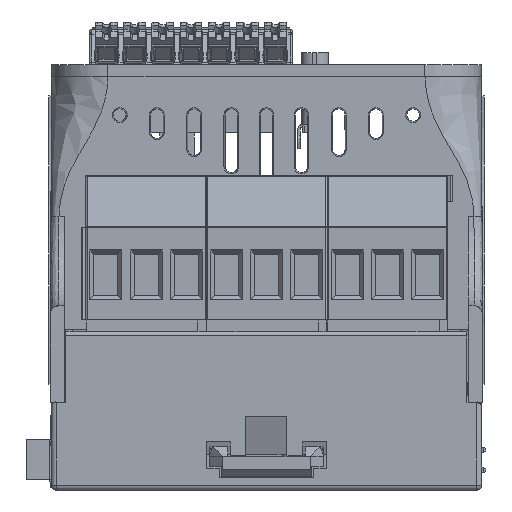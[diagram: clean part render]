
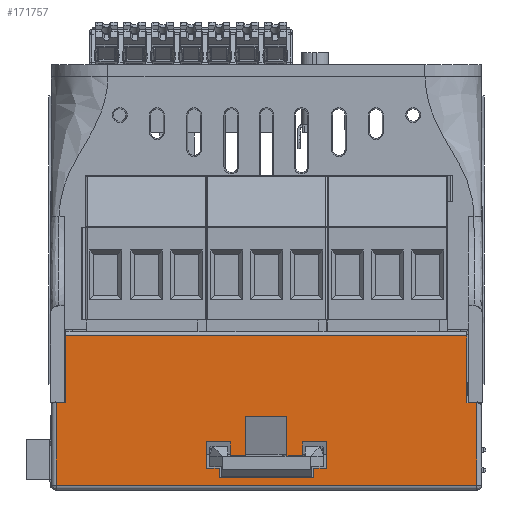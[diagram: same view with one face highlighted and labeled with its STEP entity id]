
A CAD part, front view. The second image highlights one B-rep face of the part: STEP entity #171757.
In plain terms, the highlighted planar face has unit normal (0, -1, 0).
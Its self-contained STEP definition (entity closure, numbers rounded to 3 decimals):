
#6497=FACE_BOUND('',#19394,.T.);
#10285=FACE_OUTER_BOUND('',#19393,.T.);
#19393=EDGE_LOOP('',(#122571,#122572,#122573,#122574,#122575,#122576,#122577,
#122578,#122579,#122580));
#19394=EDGE_LOOP('',(#122581,#122582,#122583,#122584,#122585,#122586,#122587,
#122588,#122589,#122590,#122591,#122592,#122593,#122594,#122595,#122596));
#32090=LINE('',#256735,#51906);
#32251=LINE('',#258641,#52067);
#32337=LINE('',#259211,#52153);
#32340=LINE('',#259222,#52156);
#32361=LINE('',#259274,#52177);
#32962=LINE('',#260685,#52778);
#32965=LINE('',#260690,#52781);
#32967=LINE('',#260694,#52783);
#32969=LINE('',#260698,#52785);
#32973=LINE('',#260704,#52789);
#32975=LINE('',#260708,#52791);
#32976=LINE('',#260711,#52792);
#32979=LINE('',#260716,#52795);
#32981=LINE('',#260720,#52797);
#32983=LINE('',#260724,#52799);
#32986=LINE('',#260729,#52802);
#32988=LINE('',#260733,#52804);
#32991=LINE('',#260738,#52807);
#32992=LINE('',#260741,#52808);
#32994=LINE('',#260745,#52810);
#32996=LINE('',#260748,#52812);
#32997=LINE('',#260751,#52813);
#33191=LINE('',#261257,#53007);
#33193=LINE('',#261260,#53009);
#33212=LINE('',#261304,#53028);
#33213=LINE('',#261306,#53029);
#51906=VECTOR('',#201868,1.);
#52067=VECTOR('',#202317,1.);
#52153=VECTOR('',#202749,1.);
#52156=VECTOR('',#202762,1.);
#52177=VECTOR('',#202799,1.);
#52778=VECTOR('',#204050,1.);
#52781=VECTOR('',#204055,1.);
#52783=VECTOR('',#204059,1.);
#52785=VECTOR('',#204063,1.);
#52789=VECTOR('',#204069,1.);
#52791=VECTOR('',#204073,1.);
#52792=VECTOR('',#204076,1.);
#52795=VECTOR('',#204081,1.);
#52797=VECTOR('',#204085,1.);
#52799=VECTOR('',#204089,1.);
#52802=VECTOR('',#204094,1.);
#52804=VECTOR('',#204098,1.);
#52807=VECTOR('',#204103,1.);
#52808=VECTOR('',#204106,1.);
#52810=VECTOR('',#204110,1.);
#52812=VECTOR('',#204114,1.);
#52813=VECTOR('',#204117,1.);
#53007=VECTOR('',#204599,1.);
#53009=VECTOR('',#204603,1.);
#53028=VECTOR('',#204650,1.);
#53029=VECTOR('',#204653,1.);
#70187=VERTEX_POINT('',#255951);
#70274=VERTEX_POINT('',#256733);
#70414=VERTEX_POINT('',#258638);
#70415=VERTEX_POINT('',#258640);
#70546=VERTEX_POINT('',#259209);
#70549=VERTEX_POINT('',#259221);
#70571=VERTEX_POINT('',#259271);
#70572=VERTEX_POINT('',#259273);
#71029=VERTEX_POINT('',#260592);
#71047=VERTEX_POINT('',#260682);
#71048=VERTEX_POINT('',#260684);
#71049=VERTEX_POINT('',#260688);
#71050=VERTEX_POINT('',#260692);
#71051=VERTEX_POINT('',#260697);
#71052=VERTEX_POINT('',#260702);
#71053=VERTEX_POINT('',#260706);
#71054=VERTEX_POINT('',#260710);
#71055=VERTEX_POINT('',#260715);
#71056=VERTEX_POINT('',#260719);
#71057=VERTEX_POINT('',#260723);
#71058=VERTEX_POINT('',#260728);
#71059=VERTEX_POINT('',#260732);
#71060=VERTEX_POINT('',#260736);
#71061=VERTEX_POINT('',#260740);
#71062=VERTEX_POINT('',#260744);
#71063=VERTEX_POINT('',#260750);
#88529=EDGE_CURVE('',#70187,#70274,#32090,.T.);
#88779=EDGE_CURVE('',#70415,#70414,#32251,.T.);
#88962=EDGE_CURVE('',#70274,#70546,#32337,.T.);
#88967=EDGE_CURVE('',#70549,#70415,#32340,.T.);
#88992=EDGE_CURVE('',#70572,#70571,#32361,.T.);
#89703=EDGE_CURVE('',#71048,#71047,#32962,.T.);
#89706=EDGE_CURVE('',#71049,#71048,#32965,.T.);
#89708=EDGE_CURVE('',#71049,#71050,#32967,.T.);
#89710=EDGE_CURVE('',#71050,#71051,#32969,.T.);
#89714=EDGE_CURVE('',#71052,#71051,#32973,.T.);
#89716=EDGE_CURVE('',#71052,#71053,#32975,.T.);
#89717=EDGE_CURVE('',#71054,#71053,#32976,.T.);
#89720=EDGE_CURVE('',#71054,#71055,#32979,.T.);
#89722=EDGE_CURVE('',#71056,#71055,#32981,.T.);
#89724=EDGE_CURVE('',#71056,#71057,#32983,.T.);
#89727=EDGE_CURVE('',#71057,#71058,#32986,.T.);
#89729=EDGE_CURVE('',#71059,#71058,#32988,.T.);
#89732=EDGE_CURVE('',#71060,#71059,#32991,.T.);
#89733=EDGE_CURVE('',#71061,#71060,#32992,.T.);
#89735=EDGE_CURVE('',#71062,#71061,#32994,.T.);
#89737=EDGE_CURVE('',#71047,#71062,#32996,.T.);
#89738=EDGE_CURVE('',#71063,#71029,#32997,.T.);
#89966=EDGE_CURVE('',#71029,#70187,#33191,.T.);
#89968=EDGE_CURVE('',#70546,#70572,#33193,.T.);
#89990=EDGE_CURVE('',#70549,#70571,#33212,.T.);
#89991=EDGE_CURVE('',#70414,#71063,#33213,.T.);
#122571=ORIENTED_EDGE('',*,*,#89991,.T.);
#122572=ORIENTED_EDGE('',*,*,#89738,.T.);
#122573=ORIENTED_EDGE('',*,*,#89966,.T.);
#122574=ORIENTED_EDGE('',*,*,#88529,.T.);
#122575=ORIENTED_EDGE('',*,*,#88962,.T.);
#122576=ORIENTED_EDGE('',*,*,#89968,.T.);
#122577=ORIENTED_EDGE('',*,*,#88992,.T.);
#122578=ORIENTED_EDGE('',*,*,#89990,.F.);
#122579=ORIENTED_EDGE('',*,*,#88967,.T.);
#122580=ORIENTED_EDGE('',*,*,#88779,.T.);
#122581=ORIENTED_EDGE('',*,*,#89737,.T.);
#122582=ORIENTED_EDGE('',*,*,#89735,.T.);
#122583=ORIENTED_EDGE('',*,*,#89733,.T.);
#122584=ORIENTED_EDGE('',*,*,#89732,.T.);
#122585=ORIENTED_EDGE('',*,*,#89729,.T.);
#122586=ORIENTED_EDGE('',*,*,#89727,.F.);
#122587=ORIENTED_EDGE('',*,*,#89724,.F.);
#122588=ORIENTED_EDGE('',*,*,#89722,.T.);
#122589=ORIENTED_EDGE('',*,*,#89720,.F.);
#122590=ORIENTED_EDGE('',*,*,#89717,.T.);
#122591=ORIENTED_EDGE('',*,*,#89716,.F.);
#122592=ORIENTED_EDGE('',*,*,#89714,.T.);
#122593=ORIENTED_EDGE('',*,*,#89710,.F.);
#122594=ORIENTED_EDGE('',*,*,#89708,.F.);
#122595=ORIENTED_EDGE('',*,*,#89706,.T.);
#122596=ORIENTED_EDGE('',*,*,#89703,.T.);
#156372=PLANE('',#181407);
#171757=ADVANCED_FACE('',(#10285,#6497),#156372,.F.);
#181407=AXIS2_PLACEMENT_3D('',#261305,#204651,#204652);
#201868=DIRECTION('',(-1.,0.,0.));
#202317=DIRECTION('',(-1.,0.,0.));
#202749=DIRECTION('',(-1.,0.,0.));
#202762=DIRECTION('',(-1.,0.,0.));
#202799=DIRECTION('',(-1.,0.,0.));
#204050=DIRECTION('',(1.,0.,0.));
#204055=DIRECTION('',(-0.009,0.,-1.));
#204059=DIRECTION('',(-1.,0.,0.009));
#204063=DIRECTION('',(0.009,0.,-1.));
#204069=DIRECTION('',(-1.,0.,0.));
#204073=DIRECTION('',(0.009,0.,-1.));
#204076=DIRECTION('',(-1.,0.,0.));
#204081=DIRECTION('',(0.009,0.,1.));
#204085=DIRECTION('',(-1.,0.,0.));
#204089=DIRECTION('',(0.009,0.,1.));
#204094=DIRECTION('',(-1.,0.,-0.009));
#204098=DIRECTION('',(-0.009,0.,1.));
#204103=DIRECTION('',(1.,0.,0.));
#204106=DIRECTION('',(0.,0.,-1.));
#204110=DIRECTION('',(1.,0.,0.));
#204114=DIRECTION('',(0.,0.,1.));
#204117=DIRECTION('',(1.,0.,0.));
#204599=DIRECTION('',(0.,0.,1.));
#204603=DIRECTION('',(0.,0.,1.));
#204650=DIRECTION('',(0.,0.,1.));
#204651=DIRECTION('center_axis',(0.,1.,0.));
#204652=DIRECTION('ref_axis',(0.,0.,
1.));
#204653=DIRECTION('',(0.,0.,-1.));
#255951=CARTESIAN_POINT('',(26.15,-44.644,4.871));
#256733=CARTESIAN_POINT('',(25.14,-44.644,4.871));
#256735=CARTESIAN_POINT('',(25.908,-44.644,4.871));
#258638=CARTESIAN_POINT('',(-26.15,-44.644,4.871));
#258640=CARTESIAN_POINT('',(-25.14,-44.644,4.871));
#258641=CARTESIAN_POINT('',(-25.908,-44.644,4.871));
#259209=CARTESIAN_POINT('',(24.941,-44.644,4.871));
#259211=CARTESIAN_POINT('',(25.908,-44.644,4.871));
#259221=CARTESIAN_POINT('',(-24.941,-44.644,4.871));
#259222=CARTESIAN_POINT('',(-25.908,-44.644,4.871));
#259271=CARTESIAN_POINT('',(-24.941,-44.644,13.156));
#259273=CARTESIAN_POINT('',(24.941,-44.644,13.156));
#259274=CARTESIAN_POINT('',(-38.979,-44.644,13.156));
#260592=CARTESIAN_POINT('',(26.15,-44.644,-5.4));
#260682=CARTESIAN_POINT('',(-2.55,-44.644,-1.725));
#260684=CARTESIAN_POINT('',(-4.498,-44.644,-1.725));
#260685=CARTESIAN_POINT('',(38.979,-44.644,-1.725));
#260688=CARTESIAN_POINT('',(-4.483,-44.644,-0.015));
#260690=CARTESIAN_POINT('',(-4.443,-44.644,4.558));
#260692=CARTESIAN_POINT('',(-7.496,-44.644,0.011));
#260694=CARTESIAN_POINT('',(-3.784,-44.644,-0.021));
#260697=CARTESIAN_POINT('',(-7.467,-44.644,-3.32));
#260698=CARTESIAN_POINT('',(-7.645,-44.644,17.1));
#260702=CARTESIAN_POINT('',(-5.867,-44.644,-3.32));
#260704=CARTESIAN_POINT('',(-3.728,-44.644,-3.32));
#260706=CARTESIAN_POINT('',(-5.857,-44.644,-4.5));
#260708=CARTESIAN_POINT('',(-5.855,-44.644,-4.646));
#260710=CARTESIAN_POINT('',(5.857,-44.644,-4.5));
#260711=CARTESIAN_POINT('',(-38.979,-44.644,-4.5));
#260715=CARTESIAN_POINT('',(5.867,-44.644,-3.32));
#260716=CARTESIAN_POINT('',(5.855,-44.644,-4.646));
#260719=CARTESIAN_POINT('',(7.467,-44.644,-3.32));
#260720=CARTESIAN_POINT('',(3.728,-44.644,-3.32));
#260723=CARTESIAN_POINT('',(7.496,-44.644,0.011));
#260724=CARTESIAN_POINT('',(7.645,-44.644,17.1));
#260728=CARTESIAN_POINT('',(4.483,-44.644,-0.015));
#260729=CARTESIAN_POINT('',(3.784,-44.644,-0.021));
#260732=CARTESIAN_POINT('',(4.498,-44.644,-1.725));
#260733=CARTESIAN_POINT('',(4.443,-44.644,4.558));
#260736=CARTESIAN_POINT('',(2.55,-44.644,-1.725));
#260738=CARTESIAN_POINT('',(-38.979,-44.644,-1.725));
#260740=CARTESIAN_POINT('',(2.55,-44.644,3.175));
#260741=CARTESIAN_POINT('',(2.55,-44.644,6.016));
#260744=CARTESIAN_POINT('',(-2.55,-44.644,3.175));
#260745=CARTESIAN_POINT('',(-38.979,-44.644,3.175));
#260748=CARTESIAN_POINT('',(-2.55,-44.644,6.016));
#260750=CARTESIAN_POINT('',(-26.15,-44.644,-5.4));
#260751=CARTESIAN_POINT('',(26.15,-44.644,-5.4));
#261257=CARTESIAN_POINT('',(26.15,-44.644,17.506));
#261260=CARTESIAN_POINT('',(24.941,-44.644,17.506));
#261304=CARTESIAN_POINT('',(-24.941,-44.644,17.506));
#261305=CARTESIAN_POINT('Origin',(-38.979,-44.644,17.506));
#261306=CARTESIAN_POINT('',(-26.15,-44.644,17.506));
